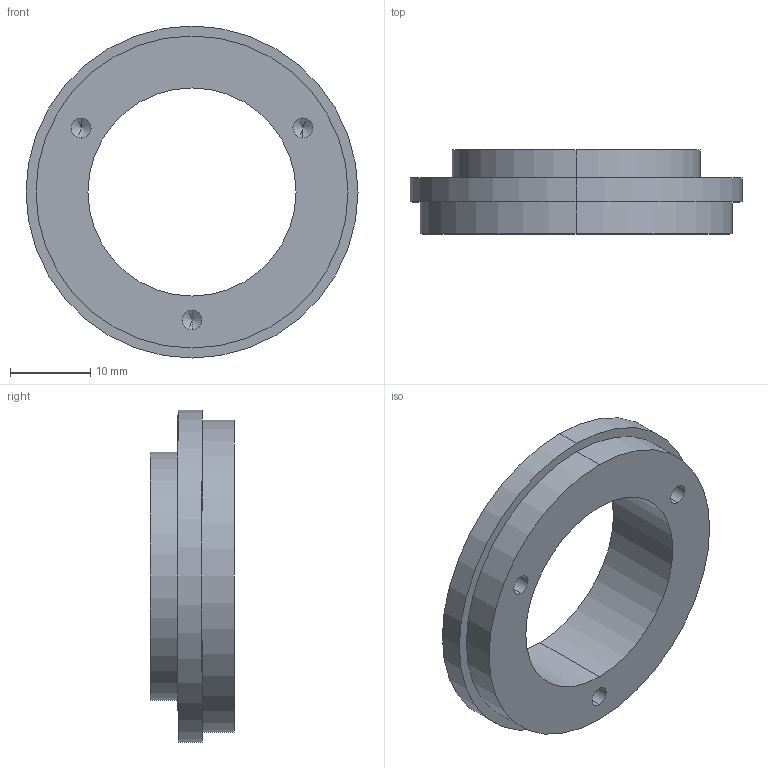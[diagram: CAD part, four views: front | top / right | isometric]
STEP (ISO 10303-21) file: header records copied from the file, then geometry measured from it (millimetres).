
FILE_DESCRIPTION (( 'STEP AP203' ), '1' );
FILE_NAME ('TPL-RMOUNT-M30.5.STEP', '2025-05-27T10:32:22', ( '' ), ( '' ), 'SwSTEP 2.0', 'SolidWorks 2024', '' );
FILE_SCHEMA (( 'CONFIG_CONTROL_DESIGN' ));
Length unit declared in the file: millimetre
Products named in the file (1): TPL-RMOUNT-M30.5
Bounding box: 41.5 x 10.5 x 41.5 mm (x, y, z)
Volume: 5831.2 mm3; surface area: 3840.8 mm2
Topology: 1 solids, 1 shells, 134 faces, 351 edges, 229 vertices
Faces by surface type: plane 57, bspline 57, cylinder 14, cone 6
Entity records: 7136 total; most frequent: CARTESIAN_POINT 4150, ORIENTED_EDGE 690, DIRECTION 415, EDGE_CURVE 345, VERTEX_POINT 229, LINE 203, VECTOR 203, EDGE_LOOP 152
